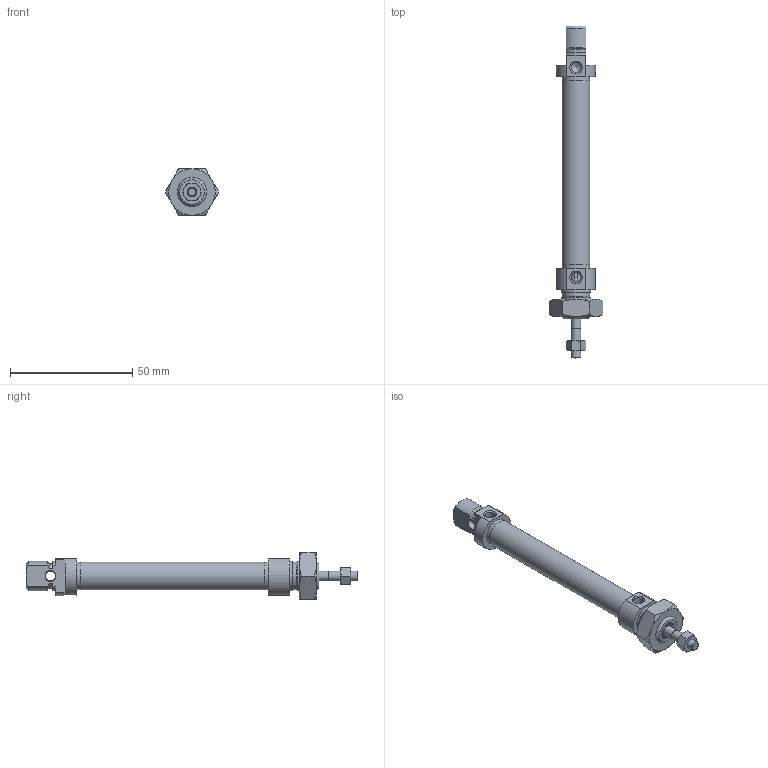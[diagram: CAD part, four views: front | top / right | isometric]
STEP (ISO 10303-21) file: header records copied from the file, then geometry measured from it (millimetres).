
FILE_DESCRIPTION(/* description */ ('Unknown'),/* implementation_level */ '2;1');
FILE_NAME(/* name */ 'RIM 10_50',/* time_stamp */ '2024-08-26T13:20:57+02:00',/* author */ ('Unknown'),/* organization */ ('HAFNER Pneumatika Kft.'),/* preprocessor_version */ 'ST-DEVELOPER v18.102',/* originating_system */ 'Solid Edge',/* authorisation */ 'Unknown');
FILE_SCHEMA (('AUTOMOTIVE_DESIGN {1 0 10303 214 3 1 1}'));
Length unit declared in the file: millimetre
Products named in the file (7): RIM 10_50; Kit_2; Profilrohr; Kit_1; Kolbenstange; Mutter_1; Mutter_2
Assembly tree (6 placements, depth 2):
  RIM 10_50
    Kit_2
    Profilrohr
    Kit_1
    Kolbenstange
    Mutter_1
    Mutter_2
Bounding box: 21.94 x 136 x 19 mm (x, y, z)
Volume: 11583.8 mm3; surface area: 11758.2 mm2
Topology: 6 solids, 6 shells, 141 faces, 294 edges, 181 vertices
Faces by surface type: cone 50, plane 50, cylinder 34, torus 7
Full cylindrical faces by diameter (mm): 3.242 x1, 4 x3, 4.12 x1, 4.134 x3, 4.426 x1, 4.7 x1, 6.5 x1, 6.6 x1, 6.7 x1, 8.1 x1, 8.2 x1, 10 x2, 10.647 x1, 11.2 x3, 11.27 x1, 12 x2
Entity records: 4449 total; most frequent: CARTESIAN_POINT 689, DIRECTION 590, ORIENTED_EDGE 460, AXIS2_PLACEMENT_3D 270, EDGE_CURVE 230, FACE_BOUND 219, EDGE_LOOP 218, VERTEX_POINT 171
